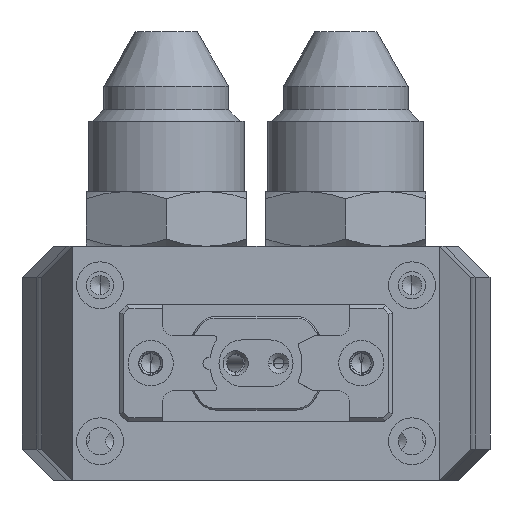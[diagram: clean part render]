
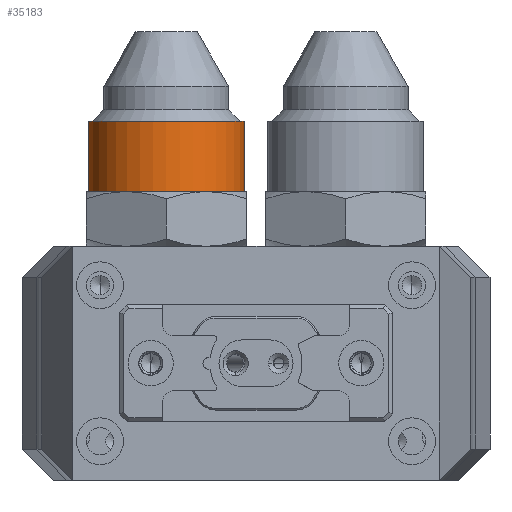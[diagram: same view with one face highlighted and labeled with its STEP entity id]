
A CAD part, front view. The second image highlights one B-rep face of the part: STEP entity #35183.
In plain terms, the highlighted cylindrical face has radius 10 mm (diameter 20 mm), a partial arc.
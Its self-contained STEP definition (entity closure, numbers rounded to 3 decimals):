
#98 = AXIS2_PLACEMENT_3D ( 'NONE', #34070, #7740, #25370 ) ;
#2300 = DIRECTION ( 'NONE',  ( -1., 0., 0. ) ) ;
#3665 = FACE_OUTER_BOUND ( 'NONE', #57278, .T. ) ;
#6239 = CARTESIAN_POINT ( 'NONE',  ( 11.954, -89.02, 1029.602 ) ) ;
#7255 = LINE ( 'NONE', #55061, #40828 ) ;
#7740 = DIRECTION ( 'NONE',  ( 0., 0., 1. ) ) ;
#7783 = ORIENTED_EDGE ( 'NONE', *, *, #33112, .F. ) ;
#11121 = DIRECTION ( 'NONE',  ( -1., 0., 0. ) ) ;
#11172 = ORIENTED_EDGE ( 'NONE', *, *, #37022, .T. ) ;
#12238 = CARTESIAN_POINT ( 'NONE',  ( -8.046, -89.02, 1020.602 ) ) ;
#12917 = DIRECTION ( 'NONE',  ( 0., 0., 1. ) ) ;
#15351 = CARTESIAN_POINT ( 'NONE',  ( 1.954, -89.02, 1020.602 ) ) ;
#16227 = AXIS2_PLACEMENT_3D ( 'NONE', #15351, #41978, #2300 ) ;
#16780 = ORIENTED_EDGE ( 'NONE', *, *, #50669, .T. ) ;
#20551 = DIRECTION ( 'NONE',  ( 0., 0., 1. ) ) ;
#21057 = ORIENTED_EDGE ( 'NONE', *, *, #22105, .T. ) ;
#22105 = EDGE_CURVE ( 'NONE', #37766, #37345, #55093, .T. ) ;
#25370 = DIRECTION ( 'NONE',  ( -1., 0., 0. ) ) ;
#28212 = CARTESIAN_POINT ( 'NONE',  ( 1.954, -89.02, 1029.602 ) ) ;
#28547 = CARTESIAN_POINT ( 'NONE',  ( 11.954, -89.02, 1020.602 ) ) ;
#29681 = LINE ( 'NONE', #47388, #34666 ) ;
#32881 = AXIS2_PLACEMENT_3D ( 'NONE', #28212, #45890, #11121 ) ;
#33112 = EDGE_CURVE ( 'NONE', #37766, #43332, #29681, .T. ) ;
#33494 = CYLINDRICAL_SURFACE ( 'NONE', #98, 10. ) ;
#34070 = CARTESIAN_POINT ( 'NONE',  ( 1.954, -89.02, 1051.875 ) ) ;
#34666 = VECTOR ( 'NONE', #12917, 1000. ) ;
#35183 = ADVANCED_FACE ( 'NONE', ( #3665 ), #33494, .T. ) ;
#35473 = VERTEX_POINT ( 'NONE', #6239 ) ;
#37022 = EDGE_CURVE ( 'NONE', #37345, #35473, #7255, .T. ) ;
#37345 = VERTEX_POINT ( 'NONE', #28547 ) ;
#37766 = VERTEX_POINT ( 'NONE', #12238 ) ;
#40828 = VECTOR ( 'NONE', #20551, 1000. ) ;
#41978 = DIRECTION ( 'NONE',  ( 0., 0., 1. ) ) ;
#43061 = CIRCLE ( 'NONE', #32881, 10. ) ;
#43280 = CARTESIAN_POINT ( 'NONE',  ( -8.046, -89.02, 1029.602 ) ) ;
#43332 = VERTEX_POINT ( 'NONE', #43280 ) ;
#45890 = DIRECTION ( 'NONE',  ( 0., 0., -1. ) ) ;
#47388 = CARTESIAN_POINT ( 'NONE',  ( -8.046, -89.02, 1051.875 ) ) ;
#50669 = EDGE_CURVE ( 'NONE', #35473, #43332, #43061, .T. ) ;
#55061 = CARTESIAN_POINT ( 'NONE',  ( 11.954, -89.02, 1051.875 ) ) ;
#55093 = CIRCLE ( 'NONE', #16227, 10. ) ;
#57278 = EDGE_LOOP ( 'NONE', ( #21057, #11172, #16780, #7783 ) ) ;
